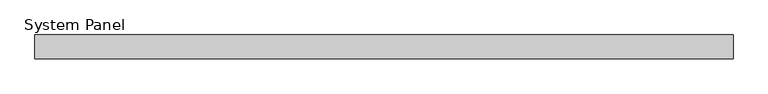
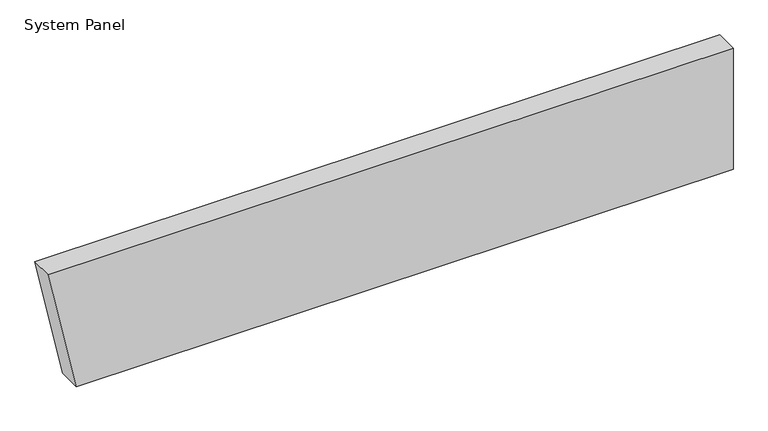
"""IFC4 building model written with IfcOpenShell, lengths in millimetres: plate geometry, System Panel : MetecnoPanel 200mm Horizontal - Plain Astro - PIR."""

from ifc_helpers import new_model, si_unit, frame, origin, place, context, project, spatial, polyline, outline, extrude, source, transform, mapped, element, save


def system_panel_58f566e3(model_context):
    return source(origin(), model_context, "Body", "SweptSolid", [
        extrude(outline(polyline([(0.0, -2709.5661783), (0.0, 2948.698535), (1100.0, 2948.698535), (1100.0, -2948.698535), (0.0, -2709.5661783)])), frame((0.0, -200.0, 0.0), z_axis=(0.0, 1.0, 0.0), x_axis=(0.0, 0.0, 1.0)), (0.0, 0.0, 1.0), 200.0),
    ])


if __name__ == "__main__":
    model = new_model("IFC4")
    model_context = context("Model", 3, world=origin())
    ifc_project = project(units=[si_unit("LENGTHUNIT", "METRE", prefix="MILLI")], contexts=[model_context])
    site = spatial("IfcSite", under=ifc_project)
    building = spatial("IfcBuilding", under=site)
    placement = place(None, origin())
    system_panel_shape = system_panel_58f566e3(model_context)
    element("IfcPlate", 1, ObjectType="System Panel : MetecnoPanel 200mm Horizontal - Plain Astro - PIR", at=placement, inside=building, context=model_context, shape_type="MappedRepresentation", body=[
        mapped(system_panel_shape, transform((0.0, 0.0, 0.0), x_axis=(1.0, 0.0, 0.0), y_axis=(0.0, 1.0, 0.0), z_axis=(0.0, 0.0, 1.0))),
    ])
    save(model, "model.ifc")
